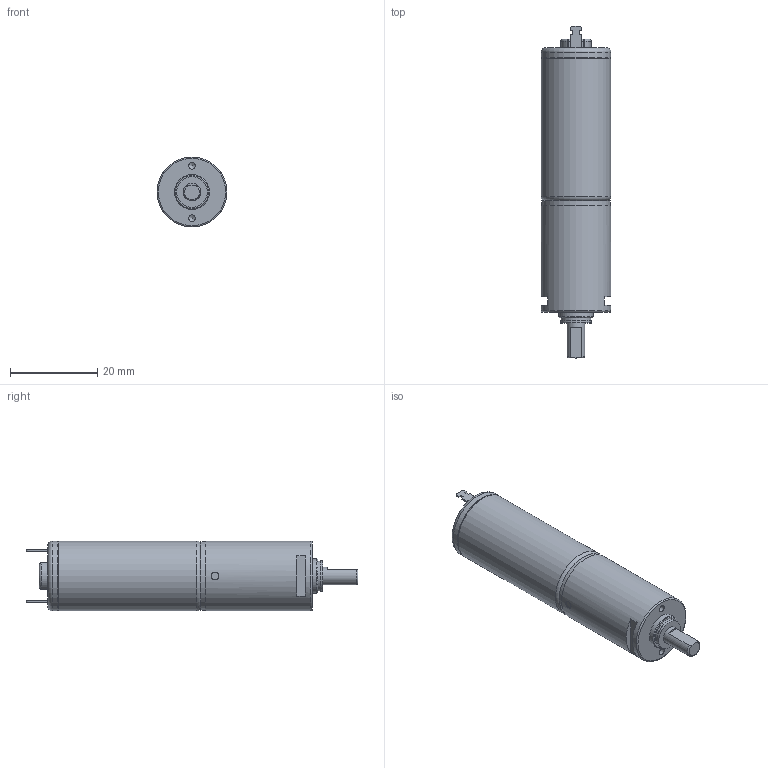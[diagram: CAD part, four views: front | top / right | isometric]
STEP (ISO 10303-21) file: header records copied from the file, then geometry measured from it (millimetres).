
FILE_DESCRIPTION((''),'2;1');
FILE_NAME('C:\Documents and Settings\SSEGAWA\デスクトップ\TP-1635B-TU-2.STP','2013-06-14T16:32:34',('SSEGAWA'),(''),'Autodesk Inventor 2010','Autodesk Inventor 2010','');
FILE_SCHEMA(('CONFIG_CONTROL_DESIGN'));
Length unit declared in the file: millimetre
Products named in the file (3): tp_1635b,c_tu_15~133_s00_12,24; tu_2,3; tp_1635
Assembly tree (2 placements, depth 2):
  tp_1635b,c_tu_15~133_s00_12,24
    tu_2,3
    tp_1635
Bounding box: 16 x 75.9 x 16 mm (x, y, z)
Volume: 12393.7 mm3; surface area: 4229.1 mm2
Topology: 2 solids, 2 shells, 97 faces, 227 edges, 144 vertices
Faces by surface type: plane 48, cylinder 24, bspline 13, torus 7, sphere 4, cone 1
Full cylindrical faces by diameter (mm): 1.5 x1, 1.7 x1, 4 x1, 6 x1, 6.8 x1, 7 x1, 8 x1, 15.6 x2, 16 x3
Entity records: 2747 total; most frequent: CARTESIAN_POINT 666, DIRECTION 426, ORIENTED_EDGE 362, EDGE_CURVE 181, AXIS2_PLACEMENT_3D 162, EDGE_LOOP 139, VERTEX_POINT 130, VECTOR 102
